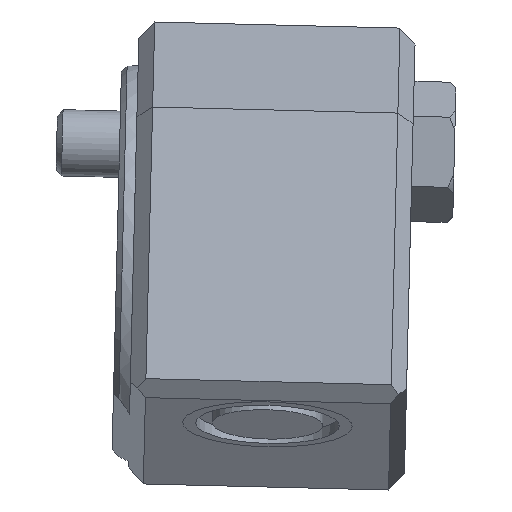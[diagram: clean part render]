
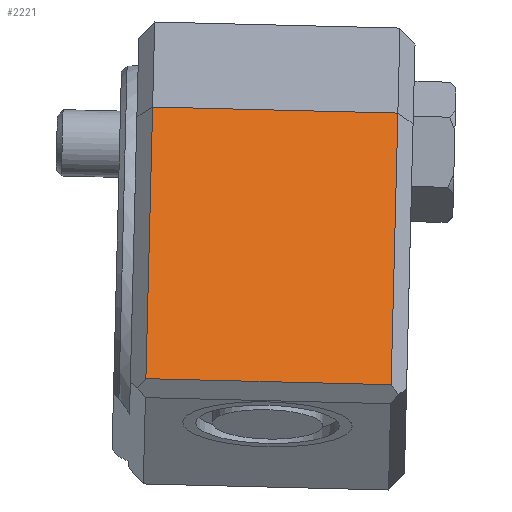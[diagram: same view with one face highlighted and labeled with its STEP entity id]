
A CAD part, top view. The second image highlights one B-rep face of the part: STEP entity #2221.
In plain terms, the highlighted planar face has unit normal (0.006, 0.263, 0.965).
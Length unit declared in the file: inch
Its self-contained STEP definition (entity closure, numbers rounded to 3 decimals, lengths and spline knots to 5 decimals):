
#130=LINE('',#3501,#261);
#135=LINE('',#3511,#266);
#137=LINE('',#3515,#268);
#138=LINE('',#3516,#269);
#261=VECTOR('',#2796,0.3937);
#266=VECTOR('',#2807,0.3937);
#268=VECTOR('',#2811,0.3937);
#269=VECTOR('',#2812,0.3937);
#424=FACE_OUTER_BOUND('',#554,.T.);
#554=EDGE_LOOP('',(#1515,#1516,#1517,#1518));
#883=VERTEX_POINT('',#3498);
#884=VERTEX_POINT('',#3500);
#886=VERTEX_POINT('',#3510);
#887=VERTEX_POINT('',#3514);
#1126=EDGE_CURVE('',#883,#884,#130,.T.);
#1131=EDGE_CURVE('',#884,#886,#135,.T.);
#1133=EDGE_CURVE('',#887,#883,#137,.T.);
#1134=EDGE_CURVE('',#886,#887,#138,.T.);
#1515=ORIENTED_EDGE('',*,*,#1126,.F.);
#1516=ORIENTED_EDGE('',*,*,#1133,.F.);
#1517=ORIENTED_EDGE('',*,*,#1134,.F.);
#1518=ORIENTED_EDGE('',*,*,#1131,.F.);
#2012=PLANE('',#2410);
#2221=ADVANCED_FACE('',(#424),#2012,.T.);
#2410=AXIS2_PLACEMENT_3D('',#3513,#2809,#2810);
#2796=DIRECTION('',(0.024,0.964,-0.263));
#2807=DIRECTION('',(1.,-0.025,0.));
#2809=DIRECTION('center_axis',(0.006,0.263,0.965));
#2810=DIRECTION('ref_axis',(-0.024,-0.964,0.263));
#2811=DIRECTION('',(-1.,0.025,0.));
#2812=DIRECTION('',(-0.024,-0.964,0.263));
#3498=CARTESIAN_POINT('',(-0.92265,-0.85819,1.11648));
#3500=CARTESIAN_POINT('',(-0.89873,0.11008,0.85234));
#3501=CARTESIAN_POINT('',(-0.90246,-0.04086,0.89351));
#3510=CARTESIAN_POINT('',(-0.02498,0.08849,0.85234));
#3511=CARTESIAN_POINT('',(-0.95384,0.11144,0.85234));
#3513=CARTESIAN_POINT('Origin',(-0.95384,0.11144,0.85234));
#3514=CARTESIAN_POINT('',(-0.0489,-0.87978,1.11648));
#3515=CARTESIAN_POINT('',(-0.97775,-0.85683,1.11648));
#3516=CARTESIAN_POINT('',(-0.02871,-0.06244,0.89351));
